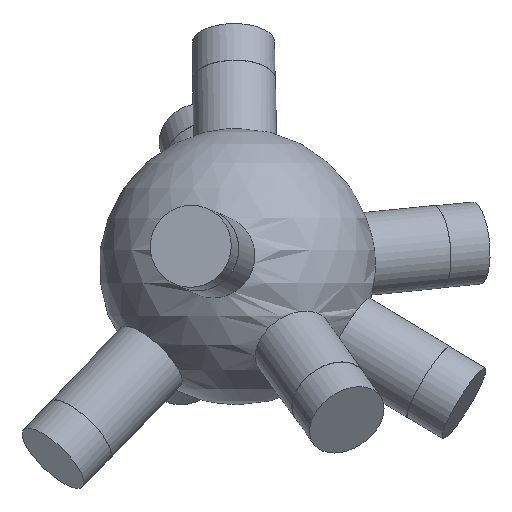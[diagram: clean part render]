
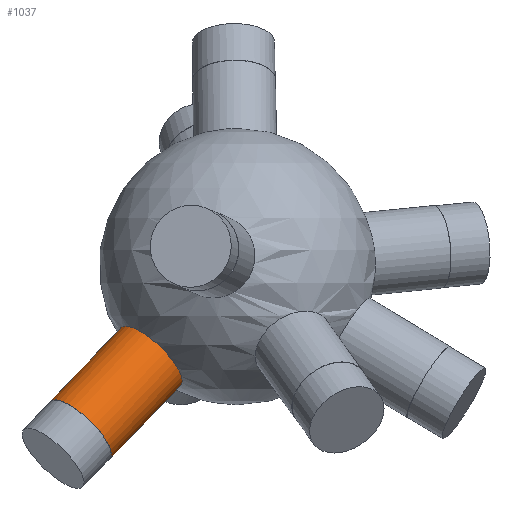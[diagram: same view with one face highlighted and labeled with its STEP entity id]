
A CAD part, front view. The second image highlights one B-rep face of the part: STEP entity #1037.
In plain terms, the highlighted cylindrical face has radius 6 mm (diameter 12 mm), a full revolution.
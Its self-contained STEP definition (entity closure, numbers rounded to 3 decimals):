
#33 = SPHERICAL_SURFACE('',#34,20.);
#34 = AXIS2_PLACEMENT_3D('',#35,#36,#37);
#35 = CARTESIAN_POINT('',(0.,0.,0.));
#36 = DIRECTION('',(0.,0.,1.));
#37 = DIRECTION('',(1.,0.,-0.));
#396 = EDGE_CURVE('',#397,#397,#399,.T.);
#397 = VERTEX_POINT('',#398);
#398 = CARTESIAN_POINT('',(-16.823,-6.216,
    -8.852));
#399 = SURFACE_CURVE('',#400,(#405,#474),.PCURVE_S1.);
#400 = CIRCLE('',#401,6.);
#401 = AXIS2_PLACEMENT_3D('',#402,#403,#404);
#402 = CARTESIAN_POINT('',(-12.496,-6.216,
    -13.008));
#403 = DIRECTION('',(-0.655,-0.326,-0.682));
#404 = DIRECTION('',(0.721,0.,-0.693)
  );
#405 = PCURVE('',#33,#406);
#406 = DEFINITIONAL_REPRESENTATION('',(#407),#473);
#407 = B_SPLINE_CURVE_WITH_KNOTS('',8,(#408,#409,#410,#411,#412,#413,
    #414,#415,#416,#417,#418,#419,#420,#421,#422,#423,#424,#425,#426,
    #427,#428,#429,#430,#431,#432,#433,#434,#435,#436,#437,#438,#439,
    #440,#441,#442,#443,#444,#445,#446,#447,#448,#449,#450,#451,#452,
    #453,#454,#455,#456,#457,#458,#459,#460,#461,#462,#463,#464,#465,
    #466,#467,#468,#469,#470,#471,#472),.UNSPECIFIED.,.T.,.F.,(9,7,7,7,7
    ,7,7,7,7,9),(3.142,3.927,4.614,
    5.216,5.742,6.202,6.605,
    7.31,8.367,9.425),.UNSPECIFIED.);
#408 = CARTESIAN_POINT('',(3.496,-0.458));
#409 = CARTESIAN_POINT('',(3.464,-0.466));
#410 = CARTESIAN_POINT('',(3.433,-0.477));
#411 = CARTESIAN_POINT('',(3.403,-0.489));
#412 = CARTESIAN_POINT('',(3.374,-0.505));
#413 = CARTESIAN_POINT('',(3.346,-0.522));
#414 = CARTESIAN_POINT('',(3.32,-0.542));
#415 = CARTESIAN_POINT('',(3.296,-0.563));
#416 = CARTESIAN_POINT('',(3.255,-0.607));
#417 = CARTESIAN_POINT('',(3.238,-0.628));
#418 = CARTESIAN_POINT('',(3.222,-0.651));
#419 = CARTESIAN_POINT('',(3.209,-0.675));
#420 = CARTESIAN_POINT('',(3.198,-0.699));
#421 = CARTESIAN_POINT('',(3.189,-0.724));
#422 = CARTESIAN_POINT('',(3.184,-0.75));
#423 = CARTESIAN_POINT('',(3.18,-0.798));
#424 = CARTESIAN_POINT('',(3.18,-0.821));
#425 = CARTESIAN_POINT('',(3.183,-0.843));
#426 = CARTESIAN_POINT('',(3.189,-0.866));
#427 = CARTESIAN_POINT('',(3.199,-0.888));
#428 = CARTESIAN_POINT('',(3.211,-0.909));
#429 = CARTESIAN_POINT('',(3.228,-0.929));
#430 = CARTESIAN_POINT('',(3.267,-0.965));
#431 = CARTESIAN_POINT('',(3.288,-0.981));
#432 = CARTESIAN_POINT('',(3.312,-0.995));
#433 = CARTESIAN_POINT('',(3.339,-1.009));
#434 = CARTESIAN_POINT('',(3.37,-1.02));
#435 = CARTESIAN_POINT('',(3.403,-1.031));
#436 = CARTESIAN_POINT('',(3.438,-1.039));
#437 = CARTESIAN_POINT('',(3.508,-1.05));
#438 = CARTESIAN_POINT('',(3.542,-1.054));
#439 = CARTESIAN_POINT('',(3.577,-1.056));
#440 = CARTESIAN_POINT('',(3.613,-1.057));
#441 = CARTESIAN_POINT('',(3.648,-1.055));
#442 = CARTESIAN_POINT('',(3.683,-1.052));
#443 = CARTESIAN_POINT('',(3.716,-1.048));
#444 = CARTESIAN_POINT('',(3.776,-1.036));
#445 = CARTESIAN_POINT('',(3.803,-1.03));
#446 = CARTESIAN_POINT('',(3.829,-1.022));
#447 = CARTESIAN_POINT('',(3.852,-1.014));
#448 = CARTESIAN_POINT('',(3.875,-1.004));
#449 = CARTESIAN_POINT('',(3.895,-0.994));
#450 = CARTESIAN_POINT('',(3.913,-0.983));
#451 = CARTESIAN_POINT('',(3.959,-0.95));
#452 = CARTESIAN_POINT('',(3.983,-0.927));
#453 = CARTESIAN_POINT('',(4.001,-0.903));
#454 = CARTESIAN_POINT('',(4.014,-0.878));
#455 = CARTESIAN_POINT('',(4.022,-0.852));
#456 = CARTESIAN_POINT('',(4.027,-0.825));
#457 = CARTESIAN_POINT('',(4.027,-0.799));
#458 = CARTESIAN_POINT('',(4.02,-0.733));
#459 = CARTESIAN_POINT('',(4.009,-0.694));
#460 = CARTESIAN_POINT('',(3.99,-0.656));
#461 = CARTESIAN_POINT('',(3.967,-0.62));
#462 = CARTESIAN_POINT('',(3.939,-0.587));
#463 = CARTESIAN_POINT('',(3.907,-0.557));
#464 = CARTESIAN_POINT('',(3.872,-0.531));
#465 = CARTESIAN_POINT('',(3.797,-0.486));
#466 = CARTESIAN_POINT('',(3.757,-0.468));
#467 = CARTESIAN_POINT('',(3.714,-0.455));
#468 = CARTESIAN_POINT('',(3.671,-0.446));
#469 = CARTESIAN_POINT('',(3.626,-0.442));
#470 = CARTESIAN_POINT('',(3.582,-0.442));
#471 = CARTESIAN_POINT('',(3.538,-0.448));
#472 = CARTESIAN_POINT('',(3.496,-0.458));
#473 = ( GEOMETRIC_REPRESENTATION_CONTEXT(2) 
PARAMETRIC_REPRESENTATION_CONTEXT() REPRESENTATION_CONTEXT('2D SPACE',''
  ) );
#474 = PCURVE('',#475,#480);
#475 = CYLINDRICAL_SURFACE('',#476,6.);
#476 = AXIS2_PLACEMENT_3D('',#477,#478,#479);
#477 = CARTESIAN_POINT('',(0.,0.,0.));
#478 = DIRECTION('',(-0.655,-0.326,-0.682));
#479 = DIRECTION('',(-0.721,0.,0.693));
#480 = DEFINITIONAL_REPRESENTATION('',(#481),#485);
#481 = LINE('',#482,#483);
#482 = CARTESIAN_POINT('',(-3.142,19.079));
#483 = VECTOR('',#484,1.);
#484 = DIRECTION('',(1.,0.));
#485 = ( GEOMETRIC_REPRESENTATION_CONTEXT(2) 
PARAMETRIC_REPRESENTATION_CONTEXT() REPRESENTATION_CONTEXT('2D SPACE',''
  ) );
#1037 = ADVANCED_FACE('',(#1038),#475,.T.);
#1038 = FACE_BOUND('',#1039,.T.);
#1039 = EDGE_LOOP('',(#1040,#1063,#1090,#1091));
#1040 = ORIENTED_EDGE('',*,*,#1041,.T.);
#1041 = EDGE_CURVE('',#397,#1042,#1044,.T.);
#1042 = VERTEX_POINT('',#1043);
#1043 = CARTESIAN_POINT('',(-27.057,-11.307,
    -19.506));
#1044 = SEAM_CURVE('',#1045,(#1049,#1056),.PCURVE_S1.);
#1045 = LINE('',#1046,#1047);
#1046 = CARTESIAN_POINT('',(-4.327,0.,
    4.157));
#1047 = VECTOR('',#1048,1.);
#1048 = DIRECTION('',(-0.655,-0.326,-0.682));
#1049 = PCURVE('',#475,#1050);
#1050 = DEFINITIONAL_REPRESENTATION('',(#1051),#1055);
#1051 = LINE('',#1052,#1053);
#1052 = CARTESIAN_POINT('',(6.283,-0.));
#1053 = VECTOR('',#1054,1.);
#1054 = DIRECTION('',(0.,1.));
#1055 = ( GEOMETRIC_REPRESENTATION_CONTEXT(2) 
PARAMETRIC_REPRESENTATION_CONTEXT() REPRESENTATION_CONTEXT('2D SPACE',''
  ) );
#1056 = PCURVE('',#475,#1057);
#1057 = DEFINITIONAL_REPRESENTATION('',(#1058),#1062);
#1058 = LINE('',#1059,#1060);
#1059 = CARTESIAN_POINT('',(0.,-0.));
#1060 = VECTOR('',#1061,1.);
#1061 = DIRECTION('',(0.,1.));
#1062 = ( GEOMETRIC_REPRESENTATION_CONTEXT(2) 
PARAMETRIC_REPRESENTATION_CONTEXT() REPRESENTATION_CONTEXT('2D SPACE',''
  ) );
#1063 = ORIENTED_EDGE('',*,*,#1064,.F.);
#1064 = EDGE_CURVE('',#1042,#1042,#1065,.T.);
#1065 = SURFACE_CURVE('',#1066,(#1071,#1078),.PCURVE_S1.);
#1066 = CIRCLE('',#1067,6.);
#1067 = AXIS2_PLACEMENT_3D('',#1068,#1069,#1070);
#1068 = CARTESIAN_POINT('',(-22.73,-11.307,
    -23.663));
#1069 = DIRECTION('',(-0.655,-0.326,-0.682));
#1070 = DIRECTION('',(-0.721,0.,0.693)
  );
#1071 = PCURVE('',#475,#1072);
#1072 = DEFINITIONAL_REPRESENTATION('',(#1073),#1077);
#1073 = LINE('',#1074,#1075);
#1074 = CARTESIAN_POINT('',(0.,34.705));
#1075 = VECTOR('',#1076,1.);
#1076 = DIRECTION('',(1.,0.));
#1077 = ( GEOMETRIC_REPRESENTATION_CONTEXT(2) 
PARAMETRIC_REPRESENTATION_CONTEXT() REPRESENTATION_CONTEXT('2D SPACE',''
  ) );
#1078 = PCURVE('',#1079,#1084);
#1079 = PLANE('',#1080);
#1080 = AXIS2_PLACEMENT_3D('',#1081,#1082,#1083);
#1081 = CARTESIAN_POINT('',(-22.73,-11.307,
    -23.663));
#1082 = DIRECTION('',(-0.655,-0.326,-0.682));
#1083 = DIRECTION('',(-0.721,0.,0.693)
  );
#1084 = DEFINITIONAL_REPRESENTATION('',(#1085),#1089);
#1085 = CIRCLE('',#1086,6.);
#1086 = AXIS2_PLACEMENT_2D('',#1087,#1088);
#1087 = CARTESIAN_POINT('',(0.,0.));
#1088 = DIRECTION('',(1.,0.));
#1089 = ( GEOMETRIC_REPRESENTATION_CONTEXT(2) 
PARAMETRIC_REPRESENTATION_CONTEXT() REPRESENTATION_CONTEXT('2D SPACE',''
  ) );
#1090 = ORIENTED_EDGE('',*,*,#1041,.F.);
#1091 = ORIENTED_EDGE('',*,*,#396,.T.);
